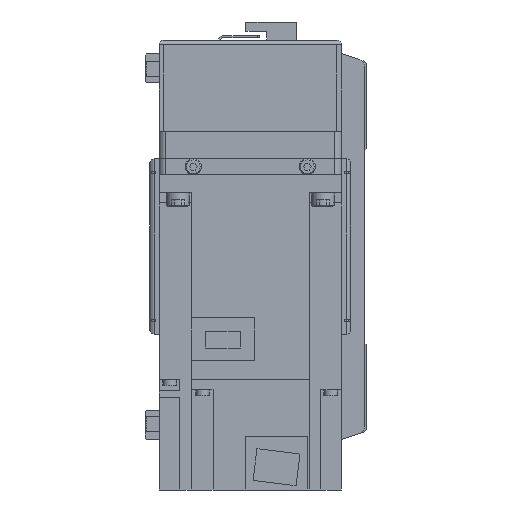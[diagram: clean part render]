
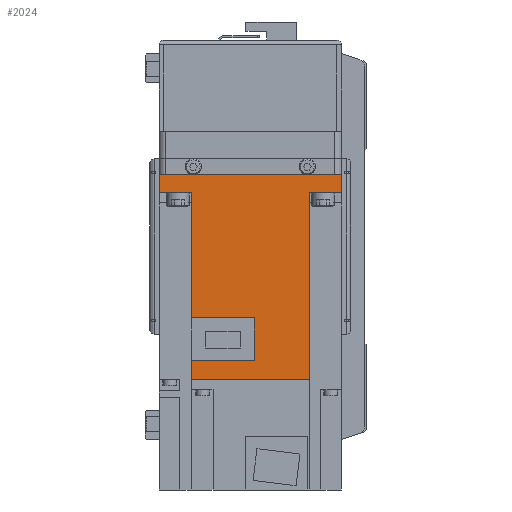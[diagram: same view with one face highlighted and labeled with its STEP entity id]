
A CAD part, left-side view. The second image highlights one B-rep face of the part: STEP entity #2024.
In plain terms, the highlighted planar face has unit normal (-1, 0, 0) as drawn and (1, 0, 0) by its records, which use the part's own axes.
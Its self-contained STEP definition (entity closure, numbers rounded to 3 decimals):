
#2024 = ADVANCED_FACE( '', ( #4719 ), #4720, .F. );
#4719 = FACE_OUTER_BOUND( '', #8213, .T. );
#4720 = PLANE( '', #8214 );
#8213 = EDGE_LOOP( '', ( #13944, #13945, #13946, #13947, #13948, #13949, #13950, #13951, #13952, #13953, #13954, #13955 ) );
#8214 = AXIS2_PLACEMENT_3D( '', #13956, #13957, #13958 );
#13944 = ORIENTED_EDGE( '', *, *, #21733, .F. );
#13945 = ORIENTED_EDGE( '', *, *, #20961, .F. );
#13946 = ORIENTED_EDGE( '', *, *, #21344, .F. );
#13947 = ORIENTED_EDGE( '', *, *, #21734, .T. );
#13948 = ORIENTED_EDGE( '', *, *, #20880, .F. );
#13949 = ORIENTED_EDGE( '', *, *, #21735, .T. );
#13950 = ORIENTED_EDGE( '', *, *, #21736, .T. );
#13951 = ORIENTED_EDGE( '', *, *, #21737, .F. );
#13952 = ORIENTED_EDGE( '', *, *, #20538, .F. );
#13953 = ORIENTED_EDGE( '', *, *, #20962, .F. );
#13954 = ORIENTED_EDGE( '', *, *, #21725, .F. );
#13955 = ORIENTED_EDGE( '', *, *, #21549, .F. );
#13956 = CARTESIAN_POINT( '', ( 40., 89.8, 40. ) );
#13957 = DIRECTION( '', ( -1., 0., 0. ) );
#13958 = DIRECTION( '', ( 0., 0., 1. ) );
#20538 = EDGE_CURVE( '', #24794, #24795, #24796, .T. );
#20880 = EDGE_CURVE( '', #25363, #25365, #25366, .T. );
#20961 = EDGE_CURVE( '', #25497, #24654, #25499, .T. );
#20962 = EDGE_CURVE( '', #24655, #24794, #25500, .T. );
#21344 = EDGE_CURVE( '', #26110, #25497, #26112, .T. );
#21549 = EDGE_CURVE( '', #26432, #26433, #26434, .T. );
#21725 = EDGE_CURVE( '', #26433, #24655, #26696, .T. );
#21733 = EDGE_CURVE( '', #24654, #26432, #26707, .T. );
#21734 = EDGE_CURVE( '', #26110, #25365, #26708, .T. );
#21735 = EDGE_CURVE( '', #25363, #26709, #26710, .T. );
#21736 = EDGE_CURVE( '', #26709, #26711, #26712, .T. );
#21737 = EDGE_CURVE( '', #24795, #26711, #26713, .T. );
#24654 = VERTEX_POINT( '', #30939 );
#24655 = VERTEX_POINT( '', #30940 );
#24794 = VERTEX_POINT( '', #31148 );
#24795 = VERTEX_POINT( '', #31149 );
#24796 = LINE( '', #31150, #31151 );
#25363 = VERTEX_POINT( '', #31959 );
#25365 = VERTEX_POINT( '', #31962 );
#25366 = LINE( '', #31963, #31964 );
#25497 = VERTEX_POINT( '', #32136 );
#25499 = LINE( '', #32139, #32140 );
#25500 = LINE( '', #32141, #32142 );
#26110 = VERTEX_POINT( '', #33080 );
#26112 = LINE( '', #33083, #33084 );
#26432 = VERTEX_POINT( '', #33623 );
#26433 = VERTEX_POINT( '', #33624 );
#26434 = LINE( '', #33625, #33626 );
#26696 = LINE( '', #34009, #34010 );
#26707 = LINE( '', #34025, #34026 );
#26708 = LINE( '', #34027, #34028 );
#26709 = VERTEX_POINT( '', #34029 );
#26710 = LINE( '', #34030, #34031 );
#26711 = VERTEX_POINT( '', #34032 );
#26712 = LINE( '', #34033, #34034 );
#26713 = LINE( '', #34035, #34036 );
#30939 = CARTESIAN_POINT( '', ( 40., 81.4, -25.95 ) );
#30940 = CARTESIAN_POINT( '', ( 40., 62.8, -25.95 ) );
#31148 = CARTESIAN_POINT( '', ( 40., 8., -25.95 ) );
#31149 = CARTESIAN_POINT( '', ( 40., 8., -40. ) );
#31150 = CARTESIAN_POINT( '', ( 40., 8., 40. ) );
#31151 = VECTOR( '', #38032, 1000. );
#31959 = CARTESIAN_POINT( '', ( 40., 8., 40. ) );
#31962 = CARTESIAN_POINT( '', ( 40., 8., 25.95 ) );
#31963 = CARTESIAN_POINT( '', ( 40., 8., 40. ) );
#31964 = VECTOR( '', #38482, 1000. );
#32136 = CARTESIAN_POINT( '', ( 40., 89.8, -25.95 ) );
#32139 = CARTESIAN_POINT( '', ( 40., 158., -25.95 ) );
#32140 = VECTOR( '', #38594, 1000. );
#32141 = CARTESIAN_POINT( '', ( 40., 158., -25.95 ) );
#32142 = VECTOR( '', #38595, 1000. );
#33080 = CARTESIAN_POINT( '', ( 40., 89.8, 25.95 ) );
#33083 = CARTESIAN_POINT( '', ( 40., 89.8, 40. ) );
#33084 = VECTOR( '', #39056, 1000. );
#33623 = CARTESIAN_POINT( '', ( 40., 81.4, 1.8 ) );
#33624 = CARTESIAN_POINT( '', ( 40., 62.8, 1.8 ) );
#33625 = CARTESIAN_POINT( '', ( 40., 81.4, 1.8 ) );
#33626 = VECTOR( '', #39310, 1000. );
#34009 = CARTESIAN_POINT( '', ( 40., 62.8, 1.8 ) );
#34010 = VECTOR( '', #39549, 1000. );
#34025 = CARTESIAN_POINT( '', ( 40., 81.4, -26. ) );
#34026 = VECTOR( '', #39557, 1000. );
#34027 = CARTESIAN_POINT( '', ( 40., 158., 25.95 ) );
#34028 = VECTOR( '', #39558, 1000. );
#34029 = CARTESIAN_POINT( '', ( 40., 0., 40. ) );
#34030 = CARTESIAN_POINT( '', ( 40., 89.8, 40. ) );
#34031 = VECTOR( '', #39559, 1000. );
#34032 = CARTESIAN_POINT( '', ( 40., 0., -40. ) );
#34033 = CARTESIAN_POINT( '', ( 40., 0., 40. ) );
#34034 = VECTOR( '', #39560, 1000. );
#34035 = CARTESIAN_POINT( '', ( 40., 89.8, -40. ) );
#34036 = VECTOR( '', #39561, 1000. );
#38032 = DIRECTION( '', ( 0., 0., -1. ) );
#38482 = DIRECTION( '', ( 0., 0., -1. ) );
#38594 = DIRECTION( '', ( 0., -1., 0. ) );
#38595 = DIRECTION( '', ( 0., -1., 0. ) );
#39056 = DIRECTION( '', ( 0., 0., -1. ) );
#39310 = DIRECTION( '', ( 0., -1., 0. ) );
#39549 = DIRECTION( '', ( 0., 0., -1. ) );
#39557 = DIRECTION( '', ( 0., 0., 1. ) );
#39558 = DIRECTION( '', ( 0., -1., 0. ) );
#39559 = DIRECTION( '', ( 0., -1., 0. ) );
#39560 = DIRECTION( '', ( 0., 0., -1. ) );
#39561 = DIRECTION( '', ( 0., -1., 0. ) );
